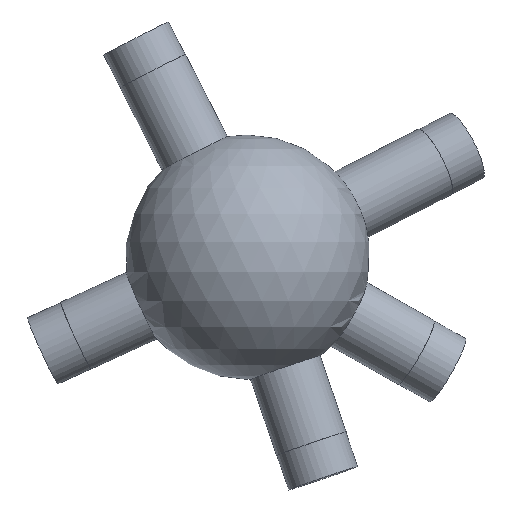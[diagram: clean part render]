
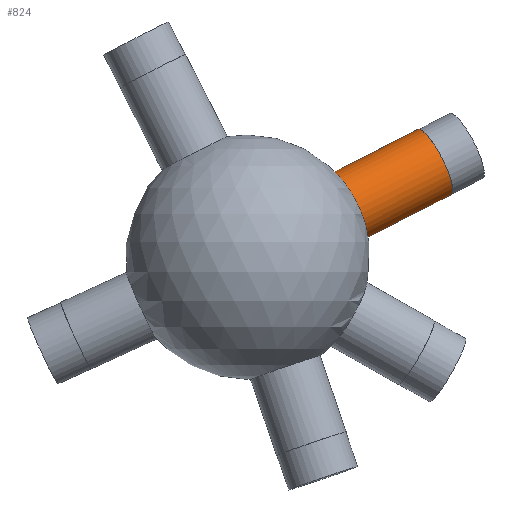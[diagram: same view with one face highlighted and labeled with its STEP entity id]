
A CAD part, left-side view. The second image highlights one B-rep face of the part: STEP entity #824.
In plain terms, the highlighted cylindrical face has radius 6 mm (diameter 12 mm), a full revolution.
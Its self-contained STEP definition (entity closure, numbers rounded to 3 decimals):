
#35 = SPHERICAL_SURFACE('',#36,20.);
#36 = AXIS2_PLACEMENT_3D('',#37,#38,#39);
#37 = CARTESIAN_POINT('',(0.,0.,0.));
#38 = DIRECTION('',(0.,0.,1.));
#39 = DIRECTION('',(1.,0.,-0.));
#521 = EDGE_CURVE('',#522,#522,#524,.T.);
#522 = VERTEX_POINT('',#523);
#523 = CARTESIAN_POINT('',(4.471,-19.251,3.069
    ));
#524 = SURFACE_CURVE('',#525,(#530,#592),.PCURVE_S1.);
#525 = CIRCLE('',#526,6.);
#526 = AXIS2_PLACEMENT_3D('',#527,#528,#529);
#527 = CARTESIAN_POINT('',(4.471,-16.528,8.416
    ));
#528 = DIRECTION('',(0.234,-0.866,0.441));
#529 = DIRECTION('',(0.,-0.454,-0.891)
  );
#530 = PCURVE('',#35,#531);
#531 = DEFINITIONAL_REPRESENTATION('',(#532),#591);
#532 = B_SPLINE_CURVE_WITH_KNOTS('',8,(#533,#534,#535,#536,#537,#538,
    #539,#540,#541,#542,#543,#544,#545,#546,#547,#548,#549,#550,#551,
    #552,#553,#554,#555,#556,#557,#558,#559,#560,#561,#562,#563,#564,
    #565,#566,#567,#568,#569,#570,#571,#572,#573,#574,#575,#576,#577,
    #578,#579,#580,#581,#582,#583,#584,#585,#586,#587,#588,#589,#590),
  .UNSPECIFIED.,.T.,.F.,(9,7,7,7,7,7,7,7,9),(0.,0.785,
    2.16,2.675,3.126,3.915,
    4.507,5.395,6.283),.UNSPECIFIED.);
#533 = CARTESIAN_POINT('',(4.941,0.154));
#534 = CARTESIAN_POINT('',(4.97,0.151));
#535 = CARTESIAN_POINT('',(5.,0.151));
#536 = CARTESIAN_POINT('',(5.03,0.154));
#537 = CARTESIAN_POINT('',(5.06,0.159));
#538 = CARTESIAN_POINT('',(5.088,0.168));
#539 = CARTESIAN_POINT('',(5.116,0.18));
#540 = CARTESIAN_POINT('',(5.143,0.194));
#541 = CARTESIAN_POINT('',(5.211,0.24));
#542 = CARTESIAN_POINT('',(5.249,0.277));
#543 = CARTESIAN_POINT('',(5.281,0.32));
#544 = CARTESIAN_POINT('',(5.305,0.368));
#545 = CARTESIAN_POINT('',(5.321,0.42));
#546 = CARTESIAN_POINT('',(5.326,0.472));
#547 = CARTESIAN_POINT('',(5.319,0.525));
#548 = CARTESIAN_POINT('',(5.294,0.592));
#549 = CARTESIAN_POINT('',(5.285,0.61));
#550 = CARTESIAN_POINT('',(5.274,0.628));
#551 = CARTESIAN_POINT('',(5.262,0.644));
#552 = CARTESIAN_POINT('',(5.248,0.66));
#553 = CARTESIAN_POINT('',(5.232,0.675));
#554 = CARTESIAN_POINT('',(5.214,0.689));
#555 = CARTESIAN_POINT('',(5.178,0.712));
#556 = CARTESIAN_POINT('',(5.16,0.722));
#557 = CARTESIAN_POINT('',(5.141,0.731));
#558 = CARTESIAN_POINT('',(5.121,0.739));
#559 = CARTESIAN_POINT('',(5.099,0.746));
#560 = CARTESIAN_POINT('',(5.077,0.751));
#561 = CARTESIAN_POINT('',(5.055,0.755));
#562 = CARTESIAN_POINT('',(4.992,0.763));
#563 = CARTESIAN_POINT('',(4.95,0.764));
#564 = CARTESIAN_POINT('',(4.909,0.761));
#565 = CARTESIAN_POINT('',(4.869,0.753));
#566 = CARTESIAN_POINT('',(4.831,0.741));
#567 = CARTESIAN_POINT('',(4.796,0.726));
#568 = CARTESIAN_POINT('',(4.765,0.708));
#569 = CARTESIAN_POINT('',(4.718,0.671));
#570 = CARTESIAN_POINT('',(4.7,0.654));
#571 = CARTESIAN_POINT('',(4.684,0.636));
#572 = CARTESIAN_POINT('',(4.671,0.616));
#573 = CARTESIAN_POINT('',(4.66,0.596));
#574 = CARTESIAN_POINT('',(4.651,0.575));
#575 = CARTESIAN_POINT('',(4.645,0.553));
#576 = CARTESIAN_POINT('',(4.634,0.498));
#577 = CARTESIAN_POINT('',(4.633,0.465));
#578 = CARTESIAN_POINT('',(4.636,0.431));
#579 = CARTESIAN_POINT('',(4.644,0.398));
#580 = CARTESIAN_POINT('',(4.655,0.366));
#581 = CARTESIAN_POINT('',(4.67,0.335));
#582 = CARTESIAN_POINT('',(4.688,0.307));
#583 = CARTESIAN_POINT('',(4.731,0.254));
#584 = CARTESIAN_POINT('',(4.755,0.23));
#585 = CARTESIAN_POINT('',(4.782,0.209));
#586 = CARTESIAN_POINT('',(4.811,0.191));
#587 = CARTESIAN_POINT('',(4.842,0.176));
#588 = CARTESIAN_POINT('',(4.874,0.165));
#589 = CARTESIAN_POINT('',(4.907,0.158));
#590 = CARTESIAN_POINT('',(4.941,0.154));
#591 = ( GEOMETRIC_REPRESENTATION_CONTEXT(2) 
PARAMETRIC_REPRESENTATION_CONTEXT() REPRESENTATION_CONTEXT('2D SPACE',''
  ) );
#592 = PCURVE('',#593,#598);
#593 = CYLINDRICAL_SURFACE('',#594,6.);
#594 = AXIS2_PLACEMENT_3D('',#595,#596,#597);
#595 = CARTESIAN_POINT('',(0.,0.,0.));
#596 = DIRECTION('',(0.234,-0.866,0.441));
#597 = DIRECTION('',(0.,-0.454,-0.891)
  );
#598 = DEFINITIONAL_REPRESENTATION('',(#599),#603);
#599 = LINE('',#600,#601);
#600 = CARTESIAN_POINT('',(0.,19.079));
#601 = VECTOR('',#602,1.);
#602 = DIRECTION('',(1.,0.));
#603 = ( GEOMETRIC_REPRESENTATION_CONTEXT(2) 
PARAMETRIC_REPRESENTATION_CONTEXT() REPRESENTATION_CONTEXT('2D SPACE',''
  ) );
#824 = ADVANCED_FACE('',(#825),#593,.T.);
#825 = FACE_BOUND('',#826,.T.);
#826 = EDGE_LOOP('',(#827,#850,#877,#878));
#827 = ORIENTED_EDGE('',*,*,#828,.T.);
#828 = EDGE_CURVE('',#522,#829,#831,.T.);
#829 = VERTEX_POINT('',#830);
#830 = CARTESIAN_POINT('',(8.272,-33.299,10.222
    ));
#831 = SEAM_CURVE('',#832,(#836,#843),.PCURVE_S1.);
#832 = LINE('',#833,#834);
#833 = CARTESIAN_POINT('',(0.,-2.722,
    -5.347));
#834 = VECTOR('',#835,1.);
#835 = DIRECTION('',(0.234,-0.866,0.441));
#836 = PCURVE('',#593,#837);
#837 = DEFINITIONAL_REPRESENTATION('',(#838),#842);
#838 = LINE('',#839,#840);
#839 = CARTESIAN_POINT('',(6.283,-0.));
#840 = VECTOR('',#841,1.);
#841 = DIRECTION('',(0.,1.));
#842 = ( GEOMETRIC_REPRESENTATION_CONTEXT(2) 
PARAMETRIC_REPRESENTATION_CONTEXT() REPRESENTATION_CONTEXT('2D SPACE',''
  ) );
#843 = PCURVE('',#593,#844);
#844 = DEFINITIONAL_REPRESENTATION('',(#845),#849);
#845 = LINE('',#846,#847);
#846 = CARTESIAN_POINT('',(0.,-0.));
#847 = VECTOR('',#848,1.);
#848 = DIRECTION('',(0.,1.));
#849 = ( GEOMETRIC_REPRESENTATION_CONTEXT(2) 
PARAMETRIC_REPRESENTATION_CONTEXT() REPRESENTATION_CONTEXT('2D SPACE',''
  ) );
#850 = ORIENTED_EDGE('',*,*,#851,.F.);
#851 = EDGE_CURVE('',#829,#829,#852,.T.);
#852 = SURFACE_CURVE('',#853,(#858,#865),.PCURVE_S1.);
#853 = CIRCLE('',#854,6.);
#854 = AXIS2_PLACEMENT_3D('',#855,#856,#857);
#855 = CARTESIAN_POINT('',(8.272,-30.577,15.569
    ));
#856 = DIRECTION('',(0.234,-0.866,0.441));
#857 = DIRECTION('',(0.,-0.454,-0.891)
  );
#858 = PCURVE('',#593,#859);
#859 = DEFINITIONAL_REPRESENTATION('',(#860),#864);
#860 = LINE('',#861,#862);
#861 = CARTESIAN_POINT('',(0.,35.295));
#862 = VECTOR('',#863,1.);
#863 = DIRECTION('',(1.,0.));
#864 = ( GEOMETRIC_REPRESENTATION_CONTEXT(2) 
PARAMETRIC_REPRESENTATION_CONTEXT() REPRESENTATION_CONTEXT('2D SPACE',''
  ) );
#865 = PCURVE('',#866,#871);
#866 = PLANE('',#867);
#867 = AXIS2_PLACEMENT_3D('',#868,#869,#870);
#868 = CARTESIAN_POINT('',(8.272,-30.577,15.569
    ));
#869 = DIRECTION('',(0.234,-0.866,0.441));
#870 = DIRECTION('',(0.,-0.454,-0.891)
  );
#871 = DEFINITIONAL_REPRESENTATION('',(#872),#876);
#872 = CIRCLE('',#873,6.);
#873 = AXIS2_PLACEMENT_2D('',#874,#875);
#874 = CARTESIAN_POINT('',(0.,0.));
#875 = DIRECTION('',(1.,0.));
#876 = ( GEOMETRIC_REPRESENTATION_CONTEXT(2) 
PARAMETRIC_REPRESENTATION_CONTEXT() REPRESENTATION_CONTEXT('2D SPACE',''
  ) );
#877 = ORIENTED_EDGE('',*,*,#828,.F.);
#878 = ORIENTED_EDGE('',*,*,#521,.T.);
